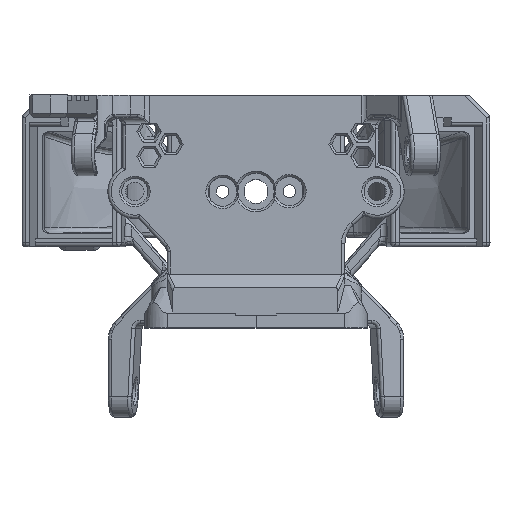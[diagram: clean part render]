
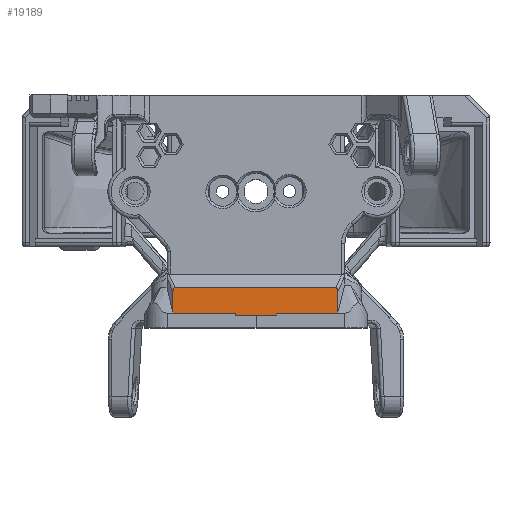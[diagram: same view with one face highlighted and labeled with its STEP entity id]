
A CAD part, top view. The second image highlights one B-rep face of the part: STEP entity #19189.
In plain terms, the highlighted planar face has unit normal (0, 0, 1).
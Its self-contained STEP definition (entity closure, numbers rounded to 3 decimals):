
#249=ELLIPSE('',#20641,1.919,0.746);
#251=ELLIPSE('',#20645,1.92,0.746);
#496=PLANE('',#20644);
#2173=FACE_OUTER_BOUND('',#3335,.T.);
#3335=EDGE_LOOP('',(#14659,#14660,#14661,#14662,#14663,#14664,#14665,#14666,
#14667,#14668));
#4480=B_SPLINE_CURVE_WITH_KNOTS('',3,(#37368,#37369,#37370,#37371),
 .UNSPECIFIED.,.F.,.F.,(4,4),(-1.184,-0.064),
 .UNSPECIFIED.);
#4481=B_SPLINE_CURVE_WITH_KNOTS('',3,(#37378,#37379,#37380,#37381),
 .UNSPECIFIED.,.F.,.F.,(4,4),(-1.097,0.),.UNSPECIFIED.);
#5332=LINE('',#35848,#6670);
#5413=LINE('',#37361,#6751);
#5415=LINE('',#37366,#6753);
#5416=LINE('',#37373,#6754);
#5417=LINE('',#37375,#6755);
#5418=LINE('',#37377,#6756);
#6670=VECTOR('',#23358,10.);
#6751=VECTOR('',#23705,10.);
#6753=VECTOR('',#23711,10.);
#6754=VECTOR('',#23712,10.);
#6755=VECTOR('',#23713,10.);
#6756=VECTOR('',#23714,10.);
#8396=VERTEX_POINT('',#35702);
#8402=VERTEX_POINT('',#35845);
#8403=VERTEX_POINT('',#35847);
#8520=VERTEX_POINT('',#37354);
#8521=VERTEX_POINT('',#37356);
#8522=VERTEX_POINT('',#37360);
#8524=VERTEX_POINT('',#37367);
#8525=VERTEX_POINT('',#37372);
#8526=VERTEX_POINT('',#37374);
#8527=VERTEX_POINT('',#37376);
#10578=EDGE_CURVE('',#8402,#8403,#5332,.T.);
#10783=EDGE_CURVE('',#8520,#8521,#249,.T.);
#10785=EDGE_CURVE('',#8522,#8521,#5413,.F.);
#10788=EDGE_CURVE('',#8396,#8520,#5415,.T.);
#10789=EDGE_CURVE('',#8524,#8396,#4480,.T.);
#10790=EDGE_CURVE('',#8525,#8524,#5416,.T.);
#10791=EDGE_CURVE('',#8525,#8526,#5417,.F.);
#10792=EDGE_CURVE('',#8527,#8526,#5418,.T.);
#10793=EDGE_CURVE('',#8403,#8527,#4481,.T.);
#10794=EDGE_CURVE('',#8522,#8402,#251,.T.);
#14659=ORIENTED_EDGE('',*,*,#10783,.F.);
#14660=ORIENTED_EDGE('',*,*,#10788,.F.);
#14661=ORIENTED_EDGE('',*,*,#10789,.F.);
#14662=ORIENTED_EDGE('',*,*,#10790,.F.);
#14663=ORIENTED_EDGE('',*,*,#10791,.T.);
#14664=ORIENTED_EDGE('',*,*,#10792,.F.);
#14665=ORIENTED_EDGE('',*,*,#10793,.F.);
#14666=ORIENTED_EDGE('',*,*,#10578,.F.);
#14667=ORIENTED_EDGE('',*,*,#10794,.F.);
#14668=ORIENTED_EDGE('',*,*,#10785,.T.);
#19189=ADVANCED_FACE('',(#2173),#496,.F.);
#20641=AXIS2_PLACEMENT_3D('',#37357,#23700,#23701);
#20644=AXIS2_PLACEMENT_3D('',#37365,#23709,#23710);
#20645=AXIS2_PLACEMENT_3D('',#37382,#23715,#23716);
#23358=DIRECTION('',(0.,-1.,0.));
#23700=DIRECTION('center_axis',(0.,0.,
-1.));
#23701=DIRECTION('ref_axis',(-0.422,0.907,0.));
#23705=DIRECTION('',(1.,0.,0.));
#23709=DIRECTION('center_axis',(0.,0.,
-1.));
#23710=DIRECTION('ref_axis',(-1.,0.,0.));
#23711=DIRECTION('',(0.,1.,0.));
#23712=DIRECTION('',(0.,1.,0.));
#23713=DIRECTION('',(-1.,-0.004,0.));
#23714=DIRECTION('',(0.,-1.,0.));
#23715=DIRECTION('center_axis',(0.,0.,
-1.));
#23716=DIRECTION('ref_axis',(0.422,0.907,0.));
#35702=CARTESIAN_POINT('',(-14.871,-39.066,-1.502));
#35845=CARTESIAN_POINT('',(14.71,-35.159,-1.502));
#35847=CARTESIAN_POINT('',(14.71,-39.067,-1.502));
#35848=CARTESIAN_POINT('',(14.71,-28.319,-1.502));
#37354=CARTESIAN_POINT('',(-14.871,-35.158,-1.502));
#37356=CARTESIAN_POINT('',(-14.492,-34.524,-1.502));
#37357=CARTESIAN_POINT('Origin',(-13.816,-36.292,-1.502));
#37360=CARTESIAN_POINT('',(14.331,-34.524,-1.502));
#37361=CARTESIAN_POINT('',(7.735,-34.524,-1.502));
#37365=CARTESIAN_POINT('Origin',(0.07,-27.896,-1.502));
#37366=CARTESIAN_POINT('',(-14.871,-28.319,-1.502));
#37367=CARTESIAN_POINT('',(-3.673,-39.093,-1.502));
#37368=CARTESIAN_POINT('Ctrl Pts',(-3.673,-39.093,
-1.502));
#37369=CARTESIAN_POINT('Ctrl Pts',(-7.406,-39.084,
-1.502));
#37370=CARTESIAN_POINT('Ctrl Pts',(-11.138,-39.075,-1.502));
#37371=CARTESIAN_POINT('Ctrl Pts',(-14.871,-39.066,
-1.502));
#37372=CARTESIAN_POINT('',(-3.673,-39.464,-1.502));
#37373=CARTESIAN_POINT('',(-3.673,-33.849,-1.502));
#37374=CARTESIAN_POINT('',(3.744,-39.438,-1.502));
#37375=CARTESIAN_POINT('',(6.477,-39.428,-1.502));
#37376=CARTESIAN_POINT('',(3.744,-39.093,-1.502));
#37377=CARTESIAN_POINT('',(3.744,-33.849,-1.502));
#37378=CARTESIAN_POINT('Ctrl Pts',(14.71,-39.067,-1.502));
#37379=CARTESIAN_POINT('Ctrl Pts',(11.054,-39.076,-1.502));
#37380=CARTESIAN_POINT('Ctrl Pts',(7.399,-39.084,-1.502));
#37381=CARTESIAN_POINT('Ctrl Pts',(3.744,-39.093,-1.502));
#37382=CARTESIAN_POINT('Origin',(13.654,-36.293,-1.502));
